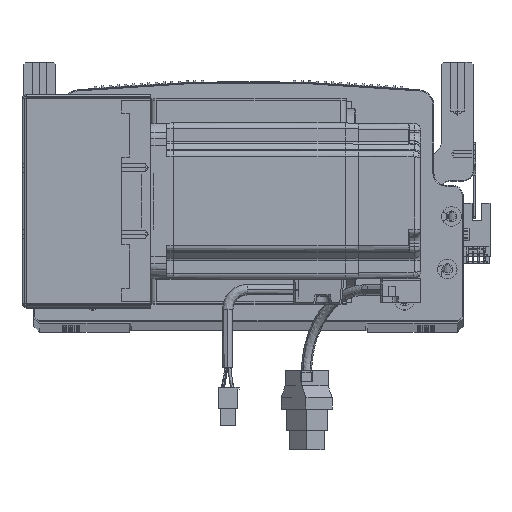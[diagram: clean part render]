
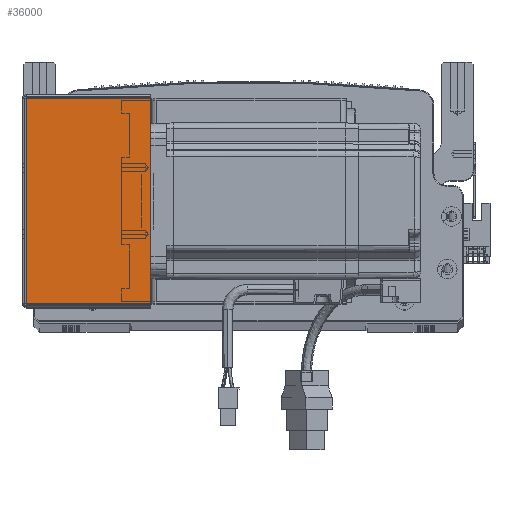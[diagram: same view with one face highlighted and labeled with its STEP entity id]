
A CAD part, top view. The second image highlights one B-rep face of the part: STEP entity #36000.
In plain terms, the highlighted planar face has unit normal (0, 0, 1) as drawn and (0, 0, -1) by its records, which use the part's own axes.
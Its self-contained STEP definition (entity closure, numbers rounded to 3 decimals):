
#648 = CARTESIAN_POINT ( 'NONE',  ( 0.737, 105.293, -205.5 ) ) ;
#1625 = VERTEX_POINT ( 'NONE', #648 ) ;
#4215 = DIRECTION ( 'NONE',  ( 1., 0., 0. ) ) ;
#8767 = VECTOR ( 'NONE', #4215, 1000. ) ;
#11035 = VERTEX_POINT ( 'NONE', #68814 ) ;
#13076 = DIRECTION ( 'NONE',  ( 0., -1., 0. ) ) ;
#13709 = ORIENTED_EDGE ( 'NONE', *, *, #92511, .F. ) ;
#15813 = EDGE_CURVE ( 'NONE', #1625, #25513, #95076, .T. ) ;
#17014 = DIRECTION ( 'NONE',  ( 1., 0., 0. ) ) ;
#21772 = ORIENTED_EDGE ( 'NONE', *, *, #73214, .T. ) ;
#24462 = FACE_OUTER_BOUND ( 'NONE', #49369, .T. ) ;
#25065 = PLANE ( 'NONE',  #70079 ) ;
#25513 = VERTEX_POINT ( 'NONE', #41915 ) ;
#30576 = LINE ( 'NONE', #70575, #78933 ) ;
#33502 = CARTESIAN_POINT ( 'NONE',  ( 0.737, 0.707, -205.5 ) ) ;
#35190 = CARTESIAN_POINT ( 'NONE',  ( 0.737, 0., -205.5 ) ) ;
#36000 = ADVANCED_FACE ( 'NONE', ( #24462 ), #25065, .F. ) ;
#36705 = LINE ( 'NONE', #35190, #41374 ) ;
#41374 = VECTOR ( 'NONE', #13076, 1000. ) ;
#41410 = CARTESIAN_POINT ( 'NONE',  ( 64.5, 0., -205.5 ) ) ;
#41915 = CARTESIAN_POINT ( 'NONE',  ( 64.5, 105.293, -205.5 ) ) ;
#49059 = VERTEX_POINT ( 'NONE', #33502 ) ;
#49369 = EDGE_LOOP ( 'NONE', ( #13709, #85218, #21772, #89871 ) ) ;
#51363 = VECTOR ( 'NONE', #77732, 1000. ) ;
#57064 = LINE ( 'NONE', #41410, #51363 ) ;
#63179 = DIRECTION ( 'NONE',  ( 1., 0., 0. ) ) ;
#68814 = CARTESIAN_POINT ( 'NONE',  ( 64.5, 0.707, -205.5 ) ) ;
#70079 = AXIS2_PLACEMENT_3D ( 'NONE', #83274, #89712, #17014 ) ;
#70507 = CARTESIAN_POINT ( 'NONE',  ( 0., 105.293, -205.5 ) ) ;
#70575 = CARTESIAN_POINT ( 'NONE',  ( 0., 0.707, -205.5 ) ) ;
#73214 = EDGE_CURVE ( 'NONE', #25513, #11035, #57064, .T. ) ;
#77732 = DIRECTION ( 'NONE',  ( 0., -1., 0. ) ) ;
#78389 = EDGE_CURVE ( 'NONE', #49059, #11035, #30576, .T. ) ;
#78933 = VECTOR ( 'NONE', #63179, 1000. ) ;
#83274 = CARTESIAN_POINT ( 'NONE',  ( 0., 0., -205.5 ) ) ;
#85218 = ORIENTED_EDGE ( 'NONE', *, *, #15813, .T. ) ;
#89712 = DIRECTION ( 'NONE',  ( 0., 0., 1. ) ) ;
#89871 = ORIENTED_EDGE ( 'NONE', *, *, #78389, .F. ) ;
#92511 = EDGE_CURVE ( 'NONE', #1625, #49059, #36705, .T. ) ;
#95076 = LINE ( 'NONE', #70507, #8767 ) ;
